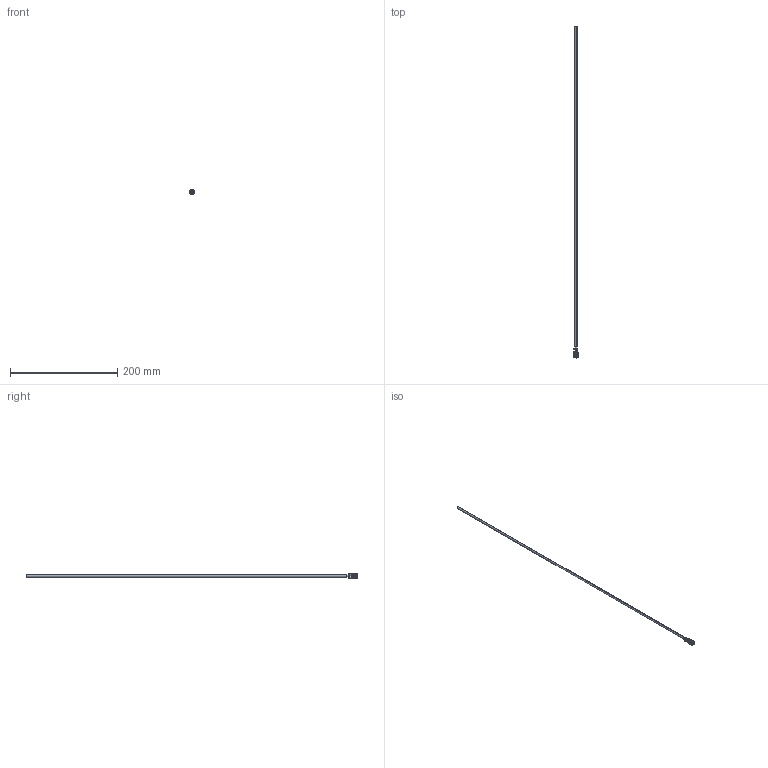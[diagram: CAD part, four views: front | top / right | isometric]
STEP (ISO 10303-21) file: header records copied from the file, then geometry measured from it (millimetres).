
FILE_DESCRIPTION (( 'STEP AP203' ), '1' );
FILE_NAME ('RF-8Fx600-4.STEP', '2015-11-25T08:56:06', ( 'Balzi' ), ( '' ), 'SwSTEP 2.0', 'SolidWorks 2015', '' );
FILE_SCHEMA (( 'CONFIG_CONTROL_DESIGN' ));
Length unit declared in the file: millimetre
Products named in the file (1): RF-8Fx600-4
Bounding box: 9 x 618 x 9 mm (x, y, z)
Volume: 2390.4 mm3; surface area: 14965.1 mm2
Topology: 1 solids, 1 shells, 77 faces, 176 edges, 108 vertices
Faces by surface type: cylinder 28, plane 25, torus 12, cone 12
Entity records: 2268 total; most frequent: DIRECTION 419, CARTESIAN_POINT 381, ORIENTED_EDGE 352, EDGE_CURVE 176, AXIS2_PLACEMENT_3D 170, VERTEX_POINT 108, CIRCLE 92, EDGE_LOOP 86
